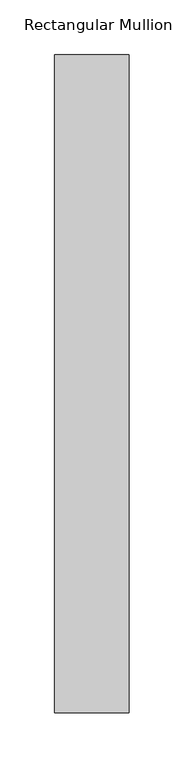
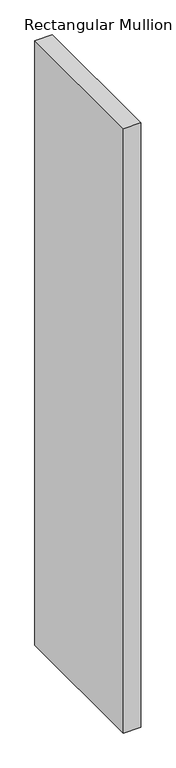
"""IFC4 building model written with IfcOpenShell, lengths in millimetres: member geometry, Rectangular Mullion : DucoSun Cubic Design louvre 600."""

from ifc_helpers import new_model, si_unit, frame, origin, place, context, project, spatial, polyline, outline, extrude, source, transform, mapped, element, save


def rectangular_mullion_bce518d6(model_context):
    return source(origin(), model_context, "Body", "SweptSolid", [
        extrude(outline(polyline([(34.0, 600.0), (34.0, 0.0), (-34.0, 0.0), (-34.0, 600.0), (34.0, 600.0)])), frame((0.0, 0.0, -2500.0), z_axis=(0.0, 0.0, 1.0), x_axis=(1.0, 0.0, 0.0)), (0.0, 0.0, 1.0), 2500.0),
    ])


if __name__ == "__main__":
    model = new_model("IFC4")
    model_context = context("Model", 3, world=origin())
    ifc_project = project(units=[si_unit("LENGTHUNIT", "METRE", prefix="MILLI")], contexts=[model_context])
    site = spatial("IfcSite", under=ifc_project)
    building = spatial("IfcBuilding", under=site)
    placement = place(None, origin())
    rectangular_mullion_shape = rectangular_mullion_bce518d6(model_context)
    element("IfcMember", 1, ObjectType="Rectangular Mullion : DucoSun Cubic Design louvre 600", at=placement, inside=building, context=model_context, shape_type="MappedRepresentation", body=[
        mapped(rectangular_mullion_shape, transform((0.0, 0.0, 0.0), x_axis=(1.0, 0.0, 0.0), y_axis=(0.0, 1.0, 0.0), z_axis=(0.0, 0.0, 1.0))),
    ])
    save(model, "model.ifc")
